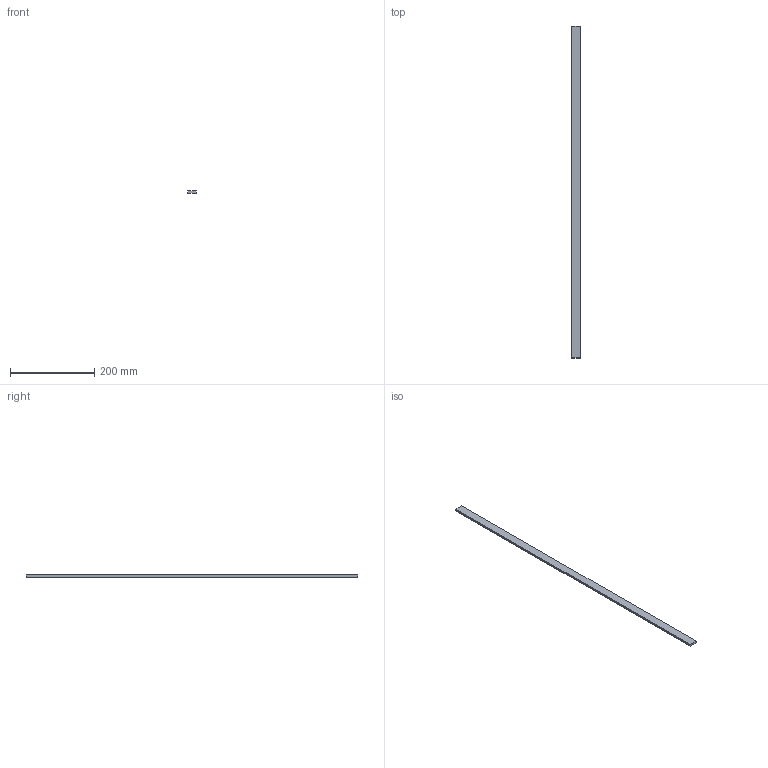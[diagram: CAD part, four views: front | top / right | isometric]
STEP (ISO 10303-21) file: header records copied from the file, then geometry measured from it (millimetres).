
FILE_DESCRIPTION (( 'STEP AP203' ), '1' );
FILE_NAME ('DN51383.STEP', '2025-10-31T07:29:19', ( '' ), ( '' ), 'SwSTEP 2.0', 'SolidWorks 2019', '' );
FILE_SCHEMA (( 'CONFIG_CONTROL_DESIGN' ));
Length unit declared in the file: millimetre
Products named in the file (1): DN51383
Bounding box: 20 x 790 x 5 mm (x, y, z)
Volume: 79000 mm3; surface area: 39700 mm2
Topology: 1 solids, 1 shells, 6 faces, 12 edges, 8 vertices
Faces by surface type: plane 6
Entity records: 233 total; most frequent: CARTESIAN_POINT 27, DIRECTION 26, ORIENTED_EDGE 24, VECTOR 12, LINE 12, EDGE_CURVE 12, PERSON_AND_ORGANIZATION 8, VERTEX_POINT 8
